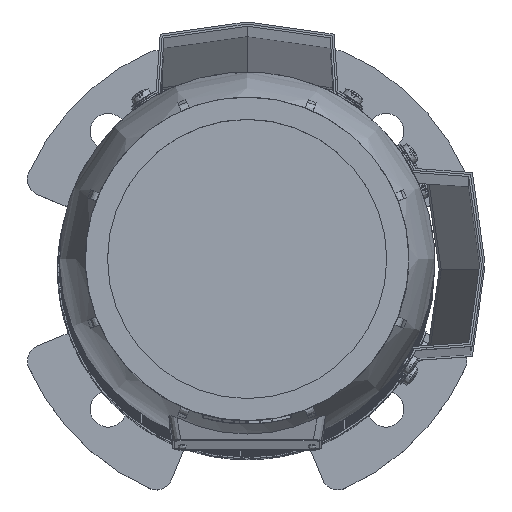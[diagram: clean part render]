
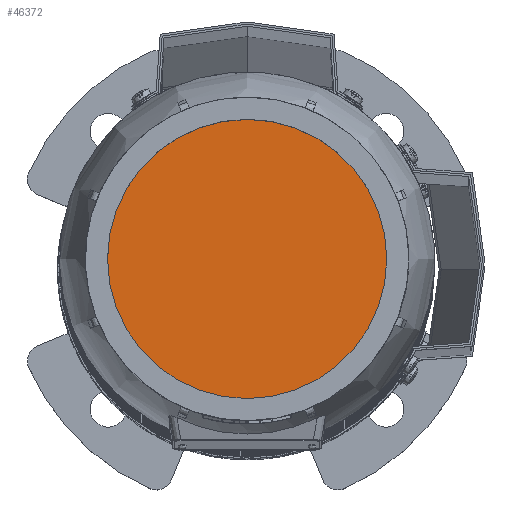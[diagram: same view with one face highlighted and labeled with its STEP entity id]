
A CAD part, top view. The second image highlights one B-rep face of the part: STEP entity #46372.
In plain terms, the highlighted planar face has unit normal (0, 0, 1) as drawn and (0, 1, 0) by its records, which use the part's own axes.
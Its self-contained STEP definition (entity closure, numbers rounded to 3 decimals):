
#9765=ORIENTED_EDGE('',*,*,#23711,.F.);
#23711=EDGE_CURVE('',#30684,#30684,#35391,.T.);
#30684=VERTEX_POINT('',#67030);
#35391=CIRCLE('',#48931,67.736);
#37513=EDGE_LOOP('',(#9765));
#40927=FACE_BOUND('',#37513,.T.);
#44359=PLANE('',#48930);
#46372=ADVANCED_FACE('',(#40927),#44359,.F.);
#48930=AXIS2_PLACEMENT_3D('',#67028,#53549,#53550);
#48931=AXIS2_PLACEMENT_3D('',#67029,#53551,#53552);
#53549=DIRECTION('',(0.,-1.,0.));
#53550=DIRECTION('',(0.,0.,-1.));
#53551=DIRECTION('',(0.,-1.,0.));
#53552=DIRECTION('',(0.,0.,-1.));
#67028=CARTESIAN_POINT('',(0.,154.,0.));
#67029=CARTESIAN_POINT('',(0.,154.,0.));
#67030=CARTESIAN_POINT('',(0.,154.,-67.736));
